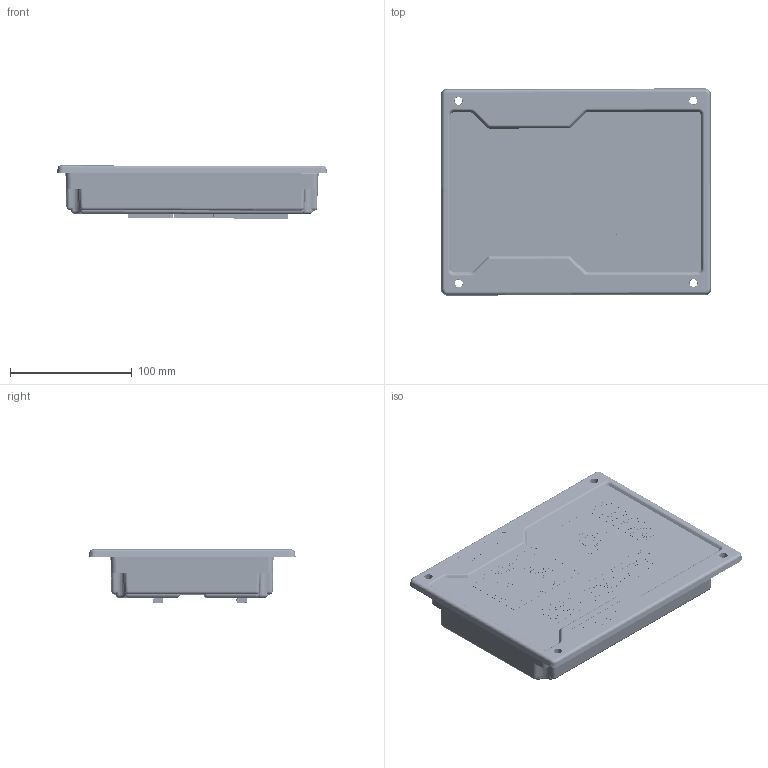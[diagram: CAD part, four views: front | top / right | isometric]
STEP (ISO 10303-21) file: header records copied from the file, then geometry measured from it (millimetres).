
FILE_DESCRIPTION(/* description */ ('CAx-IF Rec.Pracs.---Representation and Presentation of Product Manufacturing Information (PMI)---4.0---2014-10-13','CAx-IF Rec.Pracs.---3D Tessellated Geometry---0.4---2014-09-14','2;1'),/* implementation_level */ '2;1');
FILE_NAME(/* name */ 'K30ATS',/* time_stamp */ '2026-01-28T14:17:12-03:00',/* author */ ('Rodrigo Xavier'),/* organization */ ('KVA'),/* preprocessor_version */ 'ST-DEVELOPER v20',/* originating_system */ 'Solid Edge',/* authorisation */ 'Unknown');
FILE_SCHEMA (('AP242_MANAGED_MODEL_BASED_3D_ENGINEERING_MIM_LF { 1 0 10303 442 1 1 4 }'));
Products named in the file (9): ATS; Gabinete_Frontal_K30ATS; Gabinete_Traseiro_ATS; EtiquetaKVAAts; EtiquetaATS; AdesivoFrontalK30XL; PCI_K30ATS1; KVA-K30XTE-PCI1_PA_oa_0; Protrusão Extrudada_3
Assembly tree (8 placements, depth 3):
  ATS
    Gabinete_Frontal_K30ATS
    Gabinete_Traseiro_ATS
    EtiquetaKVAAts
    EtiquetaATS
    AdesivoFrontalK30XL
    PCI_K30ATS1
      KVA-K30XTE-PCI1_PA_oa_0
      Protrusão Extrudada_3
Bounding box: 222.23 x 170.31 x 43.7 mm (x, y, z)
Volume: 261579.6 mm3; surface area: 300037.3 mm2
Topology: 436 solids, 436 shells, 10383 faces, 25940 edges, 16911 vertices
Faces by surface type: plane 7896, cylinder 1106, bspline 1006, cone 203, sphere 148, torus 24
Full cylindrical faces by diameter (mm): 0.404 x6, 0.412 x6, 0.488 x2, 0.57 x2, 1.293 x1, 1.363 x1, 2.5 x11, 3.5 x4, 4.923 x1, 5.387 x1, 10.808 x1, 12.53 x6, 12.6 x4, 13.127 x1, 13.305 x6, 13.6 x4, 14.003 x1
Entity records: 398902 total; most frequent: CARTESIAN_POINT 114592, ORIENTED_EDGE 51338, DIRECTION 45349, EDGE_CURVE 25669, LINE 19875, VECTOR 19875, VERTEX_POINT 16894, AXIS2_PLACEMENT_3D 12737
